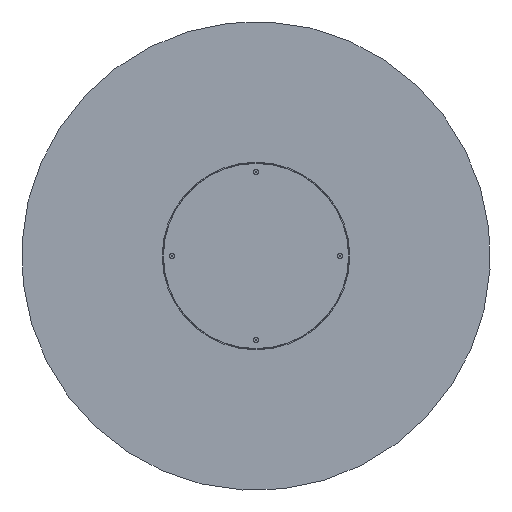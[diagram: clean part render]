
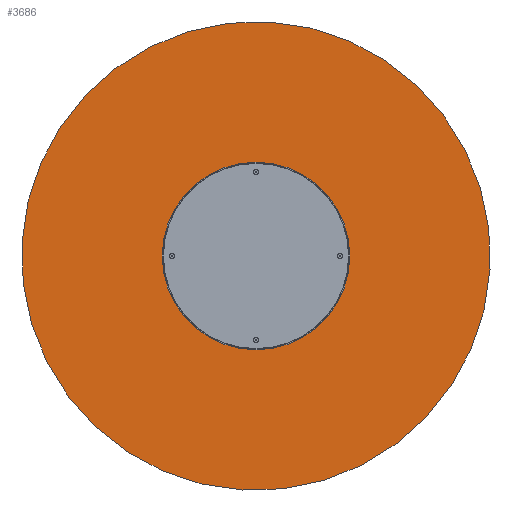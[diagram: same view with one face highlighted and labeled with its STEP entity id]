
A CAD part, front view. The second image highlights one B-rep face of the part: STEP entity #3686.
In plain terms, the highlighted planar face has unit normal (0, -1, 0).
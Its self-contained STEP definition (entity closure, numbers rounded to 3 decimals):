
#26 = DIRECTION ( 'NONE',  ( 0., 0., -1. ) ) ;
#90 = EDGE_LOOP ( 'NONE', ( #1016, #2732 ) ) ;
#436 = CARTESIAN_POINT ( 'NONE',  ( 0., 0., 0. ) ) ;
#994 = AXIS2_PLACEMENT_3D ( 'NONE', #3938, #3047, #1412 ) ;
#1016 = ORIENTED_EDGE ( 'NONE', *, *, #2602, .T. ) ;
#1412 = DIRECTION ( 'NONE',  ( 0., 0., -1. ) ) ;
#1440 = PLANE ( 'NONE',  #994 ) ;
#1664 = CIRCLE ( 'NONE', #5121, 600. ) ;
#1674 = DIRECTION ( 'NONE',  ( 0., -1., 0. ) ) ;
#1835 = CIRCLE ( 'NONE', #3254, 600. ) ;
#1969 = VERTEX_POINT ( 'NONE', #2949 ) ;
#2069 = EDGE_CURVE ( 'NONE', #1969, #3044, #1835, .T. ) ;
#2210 = FACE_OUTER_BOUND ( 'NONE', #90, .T. ) ;
#2531 = DIRECTION ( 'NONE',  ( 0., -1., 0. ) ) ;
#2602 = EDGE_CURVE ( 'NONE', #3044, #1969, #1664, .T. ) ;
#2732 = ORIENTED_EDGE ( 'NONE', *, *, #2069, .T. ) ;
#2949 = CARTESIAN_POINT ( 'NONE',  ( 0., 0., 600. ) ) ;
#3044 = VERTEX_POINT ( 'NONE', #4623 ) ;
#3047 = DIRECTION ( 'NONE',  ( 0., -1., 0. ) ) ;
#3254 = AXIS2_PLACEMENT_3D ( 'NONE', #436, #2531, #26 ) ;
#3686 = ADVANCED_FACE ( 'NONE', ( #2210 ), #1440, .T. ) ;
#3938 = CARTESIAN_POINT ( 'NONE',  ( 0., 0., 0. ) ) ;
#4072 = CARTESIAN_POINT ( 'NONE',  ( 0., 0., 0. ) ) ;
#4623 = CARTESIAN_POINT ( 'NONE',  ( 0., 0., -600. ) ) ;
#4923 = DIRECTION ( 'NONE',  ( 0., 0., -1. ) ) ;
#5121 = AXIS2_PLACEMENT_3D ( 'NONE', #4072, #1674, #4923 ) ;
